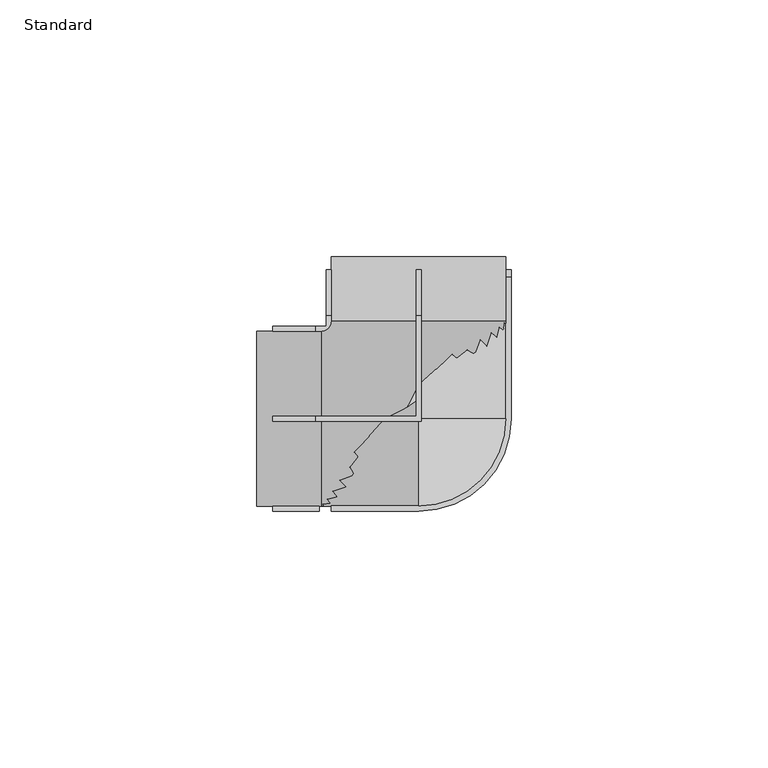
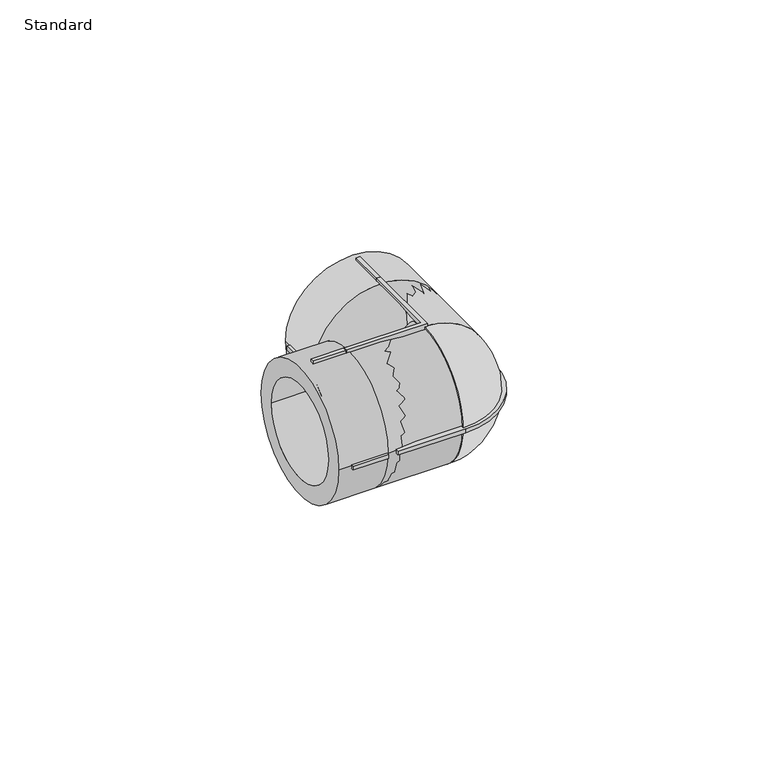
"""IFC4 building model written with IfcOpenShell, lengths in millimetres: pipe fitting geometry, EGB_VASEN_ PPR_Codo 90 WXR200_Codo 45 WXR220  : Standard."""

from ifc_helpers import new_model, si_unit, point, frame, origin, origin_2d, place, context, project, spatial, polyline, circle_curve, ellipse_curve, trimmed, segment, composite_curve, outline, extrude, source, transform, mapped, element, save
from ifc_brep_helpers import plane_surface, cylinder_surface, revolved_surface, advanced_brep


def standard_453731c9(model_context):
    return source(origin(), model_context, "Body", "SolidModel", [
        advanced_brep(
        [(0.0, 0.0, -17.0), (0.0, 0.0, 17.0)],
        [
            (0, 1, circle_curve(frame((0.0, 0.0, 0.0), z_axis=(-1.0, 0.0, 0.0), x_axis=(0.0, 1.0, 0.0)), 17.0)),
            (1, 0),
            (1, 0, circle_curve(frame((0.0, 0.0, 0.0), z_axis=(0.0, 1.0, 0.0), x_axis=(-1.0, 0.0, 0.0)), 17.0)),
        ],
        [
            plane_surface(frame((0.0, 0.0, 27.0431585), z_axis=(-1.0, 0.0, 0.0), x_axis=(0.0, -1.0, 0.0))),
            plane_surface(frame((0.0, 0.0, 27.0431585), z_axis=(0.0, 1.0, 0.0), x_axis=(1.0, 0.0, 0.0))),
            revolved_surface(trimmed(ellipse_curve(frame((0.0, 0.0, 0.0), z_axis=(1.0, 0.0, 0.0), x_axis=(0.0, 1.0, 0.0)), 17.0, 17.0), [point((0.0, 0.0, 17.0))], [point((0.0, 0.0, -17.0))], True, "CARTESIAN"), (0.0, 0.0, 27.0431585), (0.0, 0.0, -1.0)),
        ],
        [
            (0, [[1, 2]]),
            (1, [[3, -2]]),
            (2, [[-1, -3]]),
        ],
    ),
        advanced_brep(
        [(-31.5, -17.0, 0.0), (-31.5, 17.0, 0.0), (-31.5, -12.5, 0.0), (-31.5, 12.5, 0.0), (-19.0, -17.0, 0.0), (-19.0, 17.0, 0.0), (-19.0, -12.5, 0.0), (-19.0, 12.5, 0.0), (12.5, 19.0, 0.0), (-12.5, 19.0, 0.0), (-17.0, 19.0, 0.0), (17.0, 19.0, 0.0), (0.0, 19.0, 17.0), (0.0, 19.0, -17.0), (17.0, 31.5, 0.0), (-17.0, 31.5, 0.0), (12.5, 31.5, 0.0), (-12.5, 31.5, 0.0)],
        [
            (0, 1, circle_curve(frame((-31.5, 0.0, 0.0), z_axis=(-1.0, 0.0, 0.0), x_axis=(0.0, 1.0, 0.0)), 17.0)),
            (1, 0, circle_curve(frame((-31.5, 0.0, 0.0), z_axis=(-1.0, 0.0, 0.0), x_axis=(0.0, 1.0, 0.0)), 17.0)),
            (2, 3, circle_curve(frame((-31.5, 0.0, 0.0), z_axis=(1.0, 0.0, 0.0), x_axis=(0.0, 1.0, 0.0)), 12.5)),
            (3, 2, circle_curve(frame((-31.5, 0.0, 0.0), z_axis=(1.0, 0.0, 0.0), x_axis=(0.0, 1.0, 0.0)), 12.5)),
            (0, 4),
            (4, 5, circle_curve(frame((-19.0, 0.0, 0.0), z_axis=(-1.0, 0.0, 0.0), x_axis=(0.0, 1.0, 0.0)), 17.0)),
            (5, 1),
            (5, 4, circle_curve(frame((-19.0, 0.0, 0.0), z_axis=(-1.0, 0.0, 0.0), x_axis=(0.0, 1.0, 0.0)), 17.0)),
            (2, 6),
            (6, 7, circle_curve(frame((-19.0, 0.0, 0.0), z_axis=(1.0, 0.0, 0.0), x_axis=(0.0, 1.0, 0.0)), 12.5)),
            (7, 3),
            (7, 6, circle_curve(frame((-19.0, 0.0, 0.0), z_axis=(1.0, 0.0, 0.0), x_axis=(0.0, 1.0, 0.0)), 12.5)),
            (8, 9, circle_curve(frame((0.0, 19.0, 0.0), z_axis=(0.0, 1.0, 0.0), x_axis=(-1.0, 0.0, 0.0)), 12.5)),
            (9, 8, circle_curve(frame((0.0, 19.0, 0.0), z_axis=(0.0, 1.0, 0.0), x_axis=(-1.0, 0.0, 0.0)), 12.5)),
            (10, 5, circle_curve(frame((-19.0, 19.0, 0.0), z_axis=(0.0, 0.0, -1.0), x_axis=(0.0, -1.0, 0.0)), 2.0)),
            (4, 11, circle_curve(frame((-19.0, 19.0, 0.0), z_axis=(0.0, 0.0, 1.0), x_axis=(0.0, -1.0, 0.0)), 36.0)),
            (11, 12, circle_curve(frame((0.0, 19.0, 0.0), z_axis=(0.0, -1.0, 0.0), x_axis=(-1.0, 0.0, 0.0)), 17.0)),
            (12, 10, circle_curve(frame((0.0, 19.0, 0.0), z_axis=(0.0, -1.0, 0.0), x_axis=(-1.0, 0.0, 0.0)), 17.0)),
            (10, 13, circle_curve(frame((0.0, 19.0, 0.0), z_axis=(0.0, -1.0, 0.0), x_axis=(-1.0, 0.0, 0.0)), 17.0)),
            (13, 11, circle_curve(frame((0.0, 19.0, 0.0), z_axis=(0.0, -1.0, 0.0), x_axis=(-1.0, 0.0, 0.0)), 17.0)),
            (14, 15, circle_curve(frame((0.0, 31.5, 0.0), z_axis=(0.0, 1.0, 0.0), x_axis=(-1.0, 0.0, 0.0)), 17.0)),
            (15, 14, circle_curve(frame((0.0, 31.5, 0.0), z_axis=(0.0, 1.0, 0.0), x_axis=(-1.0, 0.0, 0.0)), 17.0)),
            (16, 17, circle_curve(frame((0.0, 31.5, 0.0), z_axis=(0.0, -1.0, 0.0), x_axis=(-1.0, 0.0, 0.0)), 12.5)),
            (17, 16, circle_curve(frame((0.0, 31.5, 0.0), z_axis=(0.0, -1.0, 0.0), x_axis=(-1.0, 0.0, 0.0)), 12.5)),
            (15, 10),
            (11, 14),
            (17, 9),
            (8, 16),
        ],
        [
            plane_surface(frame((-31.5, 0.0, 0.0), z_axis=(-1.0, 0.0, 0.0), x_axis=(0.0, 0.0, 1.0))),
            cylinder_surface(frame((-31.5, 0.0, 0.0), z_axis=(-1.0, 0.0, 0.0), x_axis=(0.0, 1.0, 0.0)), 17.0),
            revolved_surface(polyline([(-19.0, 12.5, 0.0), (-31.5, 12.5, 0.0)]), (-31.5, 0.0, 0.0), (1.0, 0.0, 0.0)),
            plane_surface(frame((-19.0, 0.0, 0.0), z_axis=(-1.0, 0.0, 0.0), x_axis=(0.0, 0.0, 1.0))),
            plane_surface(frame((0.0, 19.0, 0.0), z_axis=(0.0, 1.0, 0.0), x_axis=(0.0, 0.0, 1.0))),
            revolved_surface(trimmed(ellipse_curve(frame((-19.0, 0.0, 0.0), z_axis=(-1.0, 0.0, 0.0), x_axis=(0.0, 1.0, 0.0)), 17.0, 17.0), [point((-19.0, -17.0, 0.0))], [point((-19.0, 17.0, 0.0))], True, "CARTESIAN"), (-19.0, 19.0, 0.0), (0.0, 0.0, 1.0)),
            revolved_surface(trimmed(ellipse_curve(frame((-19.0, 0.0, 0.0), z_axis=(-1.0, 0.0, 0.0), x_axis=(0.0, 1.0, 0.0)), 17.0, 17.0), [point((-19.0, 17.0, 0.0))], [point((-19.0, -17.0, 0.0))], True, "CARTESIAN"), (-19.0, 19.0, 0.0), (0.0, 0.0, 1.0)),
            plane_surface(frame((0.0, 31.5, 0.0), z_axis=(0.0, 1.0, 0.0), x_axis=(0.0, 0.0, 1.0))),
            cylinder_surface(frame((0.0, 19.0, 0.0), z_axis=(0.0, -1.0, 0.0), x_axis=(-1.0, 0.0, 0.0)), 17.0),
            revolved_surface(polyline([(-12.5, 31.5, 0.0), (-12.5, 19.0, 0.0)]), (0.0, 19.0, 0.0), (0.0, 1.0, 0.0)),
        ],
        [
            (0, [[1, 2], [3, 4]]),
            (1, [[-1, 5, 6, 7]]),
            (1, [[-2, -7, 8, -5]]),
            (2, [[-3, 9, 10, 11]]),
            (2, [[-4, -11, 12, -9]]),
            (3, [[-10, -12]]),
            (4, [[13, 14]]),
            (5, [[15, -6, 16, 17, 18]]),
            (6, [[-15, 19, 20, -16, -8]]),
            (7, [[21, 22], [23, 24]]),
            (8, [[-22, 25, -18, -17, 26]]),
            (8, [[-21, -26, -20, -19, -25]]),
            (9, [[-24, 27, -13, 28]]),
            (9, [[-23, -28, -14, -27]]),
        ],
    ),
        extrude(outline(composite_curve([segment(polyline([(-17.0, -18.0), (-17.0, -16.0), (0.0, -16.0)]), True, "CONTINUOUS"), segment(trimmed(circle_curve(origin_2d(), 16.0), [point((0.0, -16.0))], [point((16.0, 0.0))], True, "CARTESIAN"), True, "CONTINUOUS"), segment(polyline([(16.0, 0.0), (16.0, 27.5), (18.0, 27.5), (18.0, 0.0)]), True, "CONTINUOUS"), segment(trimmed(circle_curve(origin_2d(), 18.0), [point((18.0, 0.0))], [point((0.0, -18.0))], False, "CARTESIAN"), True, "CONTINUOUS"), segment(polyline([(0.0, -18.0), (-17.0, -18.0)]), True, "CONTINUOUS")], self_intersect=False)), frame((0.0, 0.0, -0.5), z_axis=(0.0, 0.0, 1.0), x_axis=(1.0, 0.0, 0.0)), (0.0, 0.0, 1.0), 1.0),
        extrude(outline(polyline([(-20.0, -0.5), (-20.0, 0.5), (-0.5, 0.5), (-0.5, 20.0), (0.5, 20.0), (0.5, -0.5), (-20.0, -0.5)])), frame((0.0, 0.0, 16.0), z_axis=(0.0, 0.0, 1.0), x_axis=(1.0, 0.0, 0.0)), (0.0, 0.0, 1.0), 2.0),
        extrude(outline(polyline([(-20.0, -0.5), (-20.0, 0.5), (-0.5, 0.5), (-0.5, 20.0), (0.5, 20.0), (0.5, -0.5), (-20.0, -0.5)])), frame((0.0, 0.0, -18.0), z_axis=(0.0, 0.0, 1.0), x_axis=(1.0, 0.0, 0.0)), (0.0, 0.0, 1.0), 2.0),
        extrude(outline(polyline([(-20.0, 16.0), (-20.0, 18.0), (-18.0, 18.0), (-18.0, 20.0), (-16.0, 20.0), (-16.0, 16.0), (-20.0, 16.0)])), frame((0.0, 0.0, -0.5), z_axis=(0.0, 0.0, 1.0), x_axis=(1.0, 0.0, 0.0)), (0.0, 0.0, 1.0), 1.0),
        extrude(outline(composite_curve([segment(trimmed(circle_curve(origin_2d(), 17.0), [point((-17.0, 0.0))], [point((17.0, 0.0))], False, "CARTESIAN"), True, "CONTINUOUS"), segment(trimmed(circle_curve(origin_2d(), 17.0), [point((17.0, 0.0))], [point((-17.0, 0.0))], False, "CARTESIAN"), True, "CONTINUOUS")], self_intersect=False)), frame((-19.0, 0.0, 0.0), z_axis=(1.0, 0.0, 0.0), x_axis=(0.0, 1.0, 0.0)), (0.0, 0.0, 1.0), 19.0),
        extrude(outline(composite_curve([segment(trimmed(circle_curve(origin_2d(), 17.0), [point((0.0, -17.0))], [point((0.0, 17.0))], False, "CARTESIAN"), True, "CONTINUOUS"), segment(trimmed(circle_curve(origin_2d(), 17.0), [point((0.0, 17.0))], [point((0.0, -17.0))], False, "CARTESIAN"), True, "CONTINUOUS")], self_intersect=False)), frame((0.0, 0.0, 0.0), z_axis=(0.0, 1.0, 0.0), x_axis=(0.0, 0.0, 1.0)), (0.0, 0.0, 1.0), 19.0),
        extrude(outline(polyline([(0.5, 20.0), (-0.5, 20.0), (-0.5, 29.0), (0.5, 29.0), (0.5, 20.0)])), frame((0.0, 0.0, 16.0), z_axis=(0.0, 0.0, 1.0), x_axis=(1.0, 0.0, 0.0)), (0.0, 0.0, 1.0), 2.0),
        extrude(outline(polyline([(-16.0, 20.0), (-18.0, 20.0), (-18.0, 29.0), (-16.0, 29.0), (-16.0, 20.0)])), frame((0.0, 0.0, -0.5), z_axis=(0.0, 0.0, 1.0), x_axis=(1.0, 0.0, 0.0)), (0.0, 0.0, 1.0), 1.0),
        extrude(outline(polyline([(18.0, 20.0), (16.0, 20.0), (16.0, 29.0), (18.0, 29.0), (18.0, 20.0)])), frame((0.0, 0.0, -0.5), z_axis=(0.0, 0.0, 1.0), x_axis=(1.0, 0.0, 0.0)), (0.0, 0.0, 1.0), 1.0),
        extrude(outline(polyline([(0.5, 20.0), (-0.5, 20.0), (-0.5, 29.0), (0.5, 29.0), (0.5, 20.0)])), frame((0.0, 0.0, -18.0), z_axis=(0.0, 0.0, 1.0), x_axis=(1.0, 0.0, 0.0)), (0.0, 0.0, 1.0), 2.0),
        extrude(outline(polyline([(-19.4, 0.5), (-19.4, -0.5), (-28.4, -0.5), (-28.4, 0.5), (-19.4, 0.5)])), frame((0.0, 0.0, 16.0), z_axis=(0.0, 0.0, 1.0), x_axis=(1.0, 0.0, 0.0)), (0.0, 0.0, 1.0), 2.0),
        extrude(outline(polyline([(-19.4, 0.5), (-19.4, -0.5), (-28.4, -0.5), (-28.4, 0.5), (-19.4, 0.5)])), frame((0.0, 0.0, -18.0), z_axis=(0.0, 0.0, 1.0), x_axis=(1.0, 0.0, 0.0)), (0.0, 0.0, 1.0), 2.0),
        extrude(outline(polyline([(-19.4, 18.0), (-19.4, 16.0), (-28.4, 16.0), (-28.4, 18.0), (-19.4, 18.0)])), frame((0.0, 0.0, -0.5), z_axis=(0.0, 0.0, 1.0), x_axis=(1.0, 0.0, 0.0)), (0.0, 0.0, 1.0), 1.0),
        extrude(outline(polyline([(-19.4, -16.0), (-19.4, -18.0), (-28.4, -18.0), (-28.4, -16.0), (-19.4, -16.0)])), frame((0.0, 0.0, -0.5), z_axis=(0.0, 0.0, 1.0), x_axis=(1.0, 0.0, 0.0)), (0.0, 0.0, 1.0), 1.0),
    ])


if __name__ == "__main__":
    model = new_model("IFC4")
    model_context = context("Model", 3, world=origin())
    ifc_project = project(units=[si_unit("LENGTHUNIT", "METRE", prefix="MILLI")], contexts=[model_context])
    site = spatial("IfcSite", under=ifc_project)
    building = spatial("IfcBuilding", under=site)
    placement = place(None, origin())
    standard_shape = standard_453731c9(model_context)
    element("IfcPipeFitting", 1, ObjectType="EGB_VASEN_ PPR_Codo 90 WXR200_Codo 45 WXR220  : Standard", at=placement, inside=building, context=model_context, shape_type="MappedRepresentation", body=[
        mapped(standard_shape, transform((0.0, 0.0, 0.0), x_axis=(1.0, 0.0, 0.0), y_axis=(0.0, 1.0, 0.0), z_axis=(0.0, 0.0, 1.0))),
    ])
    save(model, "model.ifc")
